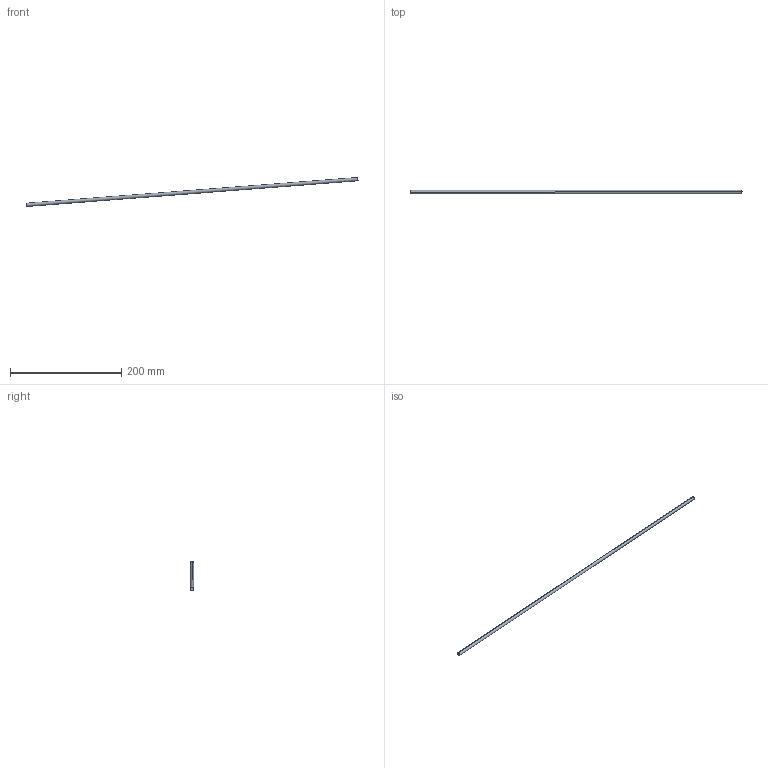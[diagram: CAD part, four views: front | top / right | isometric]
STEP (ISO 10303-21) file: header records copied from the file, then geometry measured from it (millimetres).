
FILE_DESCRIPTION((''),'2;1');
FILE_NAME('0000239488','2025-11-15T12:24:44',('Wyndorps'),(''),'CREO PARAMETRIC BY PTC INC, 2025323','CREO PARAMETRIC BY PTC INC, 2025323','');
FILE_SCHEMA(('CONFIG_CONTROL_DESIGN'));
Length unit declared in the file: millimetre
Products named in the file (1): 0000239488
Bounding box: 597.83 x 6 x 52.27 mm (x, y, z)
Volume: 16902.6 mm3; surface area: 11468.8 mm2
Topology: 1 solids, 2 shells, 11 faces, 24 edges, 15 vertices
Faces by surface type: cylinder 6, plane 3, cone 2
Entity records: 342 total; most frequent: DIRECTION 60, CARTESIAN_POINT 49, ORIENTED_EDGE 40, AXIS2_PLACEMENT_3D 26, EDGE_CURVE 22, VERTEX_POINT 15, CIRCLE 14, EDGE_LOOP 13
